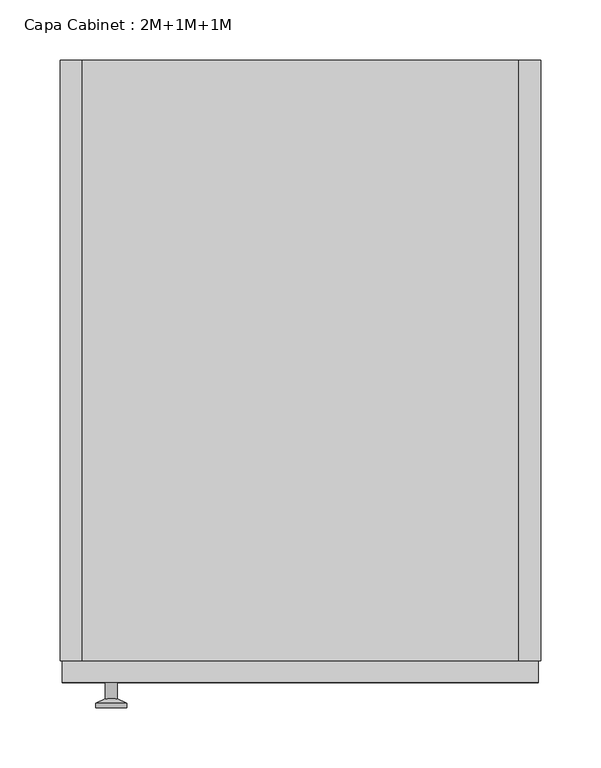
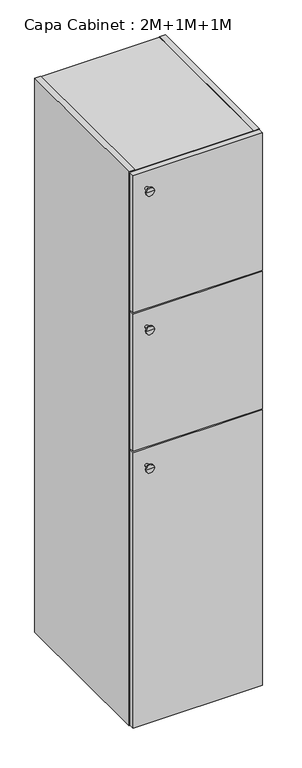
"""IFC4 building model written with IfcOpenShell, lengths in millimetres: furniture geometry, Capa Cabinet : 2M+1M+1M."""

from ifc_helpers import new_model, si_unit, frame, origin, place, context, project, spatial, polyline, circle_curve, outline, extrude, faceted_brep, source, transform, mapped, element, save
from ifc_brep_helpers import plane_surface, cylinder_surface, revolved_surface, advanced_brep


def capa_cabinet_2m_1m_1m_d4ed1249(model_context):
    return source(origin(), model_context, "Body", "SolidModel", [
        extrude(outline(polyline([(182.0, 0.0), (-182.0, 0.0), (-182.0, 490.0), (182.0, 490.0), (182.0, 0.0)])), frame((0.0, 0.0, 1337.0), z_axis=(0.0, 0.0, 1.0), x_axis=(1.0, 0.0, 0.0)), (0.0, 0.0, 1.0), 14.0),
        extrude(outline(polyline([(182.0, 0.0), (-182.0, 0.0), (-182.0, 490.0), (182.0, 490.0), (182.0, 0.0)])), frame((0.0, 0.0, 889.0), z_axis=(0.0, 0.0, 1.0), x_axis=(1.0, 0.0, 0.0)), (0.0, 0.0, 1.0), 14.0),
        extrude(outline(polyline([(182.0, 0.0), (-182.0, 0.0), (-182.0, 490.0), (182.0, 490.0), (182.0, 0.0)])), frame((0.0, 0.0, 441.0), z_axis=(0.0, 0.0, 1.0), x_axis=(1.0, 0.0, 0.0)), (0.0, 0.0, 1.0), 14.0),
        faceted_brep([(-182.0, 500.0, 1792.0), (-182.0, 500.0, 1791.0), (182.0, 500.0, 1791.0), (182.0, 500.0, 1792.0), (200.0, 500.0, 1792.0), (200.0, 500.0, 0.0), (182.0, 500.0, 0.0), (182.0, 500.0, 1.0), (-182.0, 500.0, 1.0), (-182.0, 500.0, 0.0), (-200.0, 500.0, 0.0), (-200.0, 500.0, 1792.0), (182.0, 490.0, 19.0), (182.0, 490.0, 1773.0), (-182.0, 490.0, 1773.0), (-182.0, 490.0, 19.0), (-182.0, 0.0, 1792.0), (-200.0, 0.0, 1792.0), (-200.0, 0.0, 0.0), (-182.0, 0.0, 0.0), (-182.0, 0.0, 1.0), (182.0, 0.0, 1.0), (182.0, 0.0, 0.0), (200.0, 0.0, 0.0), (200.0, 0.0, 1792.0), (182.0, 0.0, 1792.0), (182.0, 0.0, 1791.0), (-182.0, 0.0, 1791.0), (182.0, 0.0, 1773.0), (182.0, 0.0, 19.0), (-182.0, 0.0, 19.0), (-182.0, 0.0, 1773.0)], [[[0, 1, 2, 3, 4, 5, 6, 7, 8, 9, 10, 11]], [[12, 13, 14, 15]], [[16, 17, 18, 19, 20, 21, 22, 23, 24, 25, 26, 27], [28, 29, 30, 31]], [[17, 16, 0, 11]], [[18, 17, 11, 10]], [[23, 22, 6, 5]], [[24, 23, 5, 4]], [[19, 18, 10, 9]], [[20, 19, 9, 8]], [[21, 20, 8, 7]], [[22, 21, 7, 6]], [[25, 24, 4, 3]], [[26, 25, 3, 2]], [[27, 26, 2, 1]], [[16, 27, 1, 0]], [[29, 28, 13, 12]], [[30, 29, 12, 15]], [[31, 30, 15, 14]], [[28, 31, 14, 13]]]),
        extrude(outline(polyline([(198.0, -18.0), (-198.0, -18.0), (-198.0, 0.0), (198.0, 0.0), (198.0, -18.0)])), frame((0.0, 0.0, 1346.0), z_axis=(0.0, 0.0, 1.0), x_axis=(1.0, 0.0, 0.0)), (0.0, 0.0, 1.0), 444.0),
        advanced_brep(
        [(-157.2922597, -18.0, 1736.0), (-152.2922597, -18.0, 1736.0), (-162.2922597, -18.0, 1736.0), (-170.2922597, -38.997134, 1736.0), (-144.2922597, -38.997134, 1736.0), (-157.2922597, -38.997134, 1736.0), (-170.2922597, -35.5419417, 1736.0), (-144.2922597, -35.5419417, 1736.0), (-162.2922597, -31.8114804, 1736.0), (-152.2922597, -31.8114804, 1736.0)],
        [
            (0, 1),
            (1, 2, circle_curve(frame((-157.2922597, -18.0, 1736.0), z_axis=(0.0, 1.0, 0.0), x_axis=(1.0, 0.0, 0.0)), 5.0)),
            (2, 0),
            (2, 1, circle_curve(frame((-157.2922597, -18.0, 1736.0), z_axis=(0.0, 1.0, 0.0), x_axis=(1.0, 0.0, 0.0)), 5.0)),
            (3, 4, circle_curve(frame((-157.2922597, -38.997134, 1736.0), z_axis=(0.0, -1.0, 0.0), x_axis=(1.0, 0.0, 0.0)), 13.0)),
            (4, 5),
            (5, 3),
            (4, 3, circle_curve(frame((-157.2922597, -38.997134, 1736.0), z_axis=(0.0, -1.0, 0.0), x_axis=(1.0, 0.0, 0.0)), 13.0)),
            (6, 7, circle_curve(frame((-157.2922597, -35.5419417, 1736.0), z_axis=(0.0, -1.0, 0.0), x_axis=(1.0, 0.0, 0.0)), 13.0)),
            (7, 4),
            (3, 6),
            (7, 6, circle_curve(frame((-157.2922597, -35.5419417, 1736.0), z_axis=(0.0, -1.0, 0.0), x_axis=(1.0, 0.0, 0.0)), 13.0)),
            (8, 9, circle_curve(frame((-157.2922597, -31.8114804, 1736.0), z_axis=(0.0, -1.0, 0.0), x_axis=(1.0, 0.0, 0.0)), 5.0)),
            (9, 7),
            (6, 8),
            (9, 8, circle_curve(frame((-157.2922597, -31.8114804, 1736.0), z_axis=(0.0, -1.0, 0.0), x_axis=(1.0, 0.0, 0.0)), 5.0)),
            (1, 9),
            (8, 2),
        ],
        [
            plane_surface(frame((-157.2922597, -18.0, 1736.0), z_axis=(0.0, 1.0, 0.0), x_axis=(1.0, 0.0, 0.0))),
            plane_surface(frame((-157.2922597, -38.997134, 1736.0), z_axis=(0.0, -1.0, 0.0), x_axis=(1.0, 0.0, 0.0))),
            cylinder_surface(frame((-157.2922597, -38.997134, 1736.0), z_axis=(0.0, 1.0, 0.0), x_axis=(1.0, 0.0, 0.0)), 13.0),
            revolved_surface(polyline([(-144.2922597, -35.5419417, 1736.0), (-152.2922597, -31.8114804, 1736.0)]), (-157.2922597, -38.997134, 1736.0), (0.0, 1.0, 0.0)),
            cylinder_surface(frame((-157.2922597, -38.997134, 1736.0), z_axis=(0.0, 1.0, 0.0), x_axis=(1.0, 0.0, 0.0)), 5.0),
        ],
        [
            (0, [[1, 2, 3]]),
            (0, [[-3, 4, -1]]),
            (1, [[5, 6, 7]]),
            (1, [[8, -7, -6]]),
            (2, [[9, 10, -5, 11]]),
            (2, [[12, -11, -8, -10]]),
            (3, [[13, 14, -9, 15]]),
            (3, [[16, -15, -12, -14]]),
            (4, [[-2, 17, -13, 18]]),
            (4, [[-4, -18, -16, -17]]),
        ],
    ),
        extrude(outline(polyline([(198.0, -18.0), (-198.0, -18.0), (-198.0, 0.0), (198.0, 0.0), (198.0, -18.0)])), frame((0.0, 0.0, 898.0), z_axis=(0.0, 0.0, 1.0), x_axis=(1.0, 0.0, 0.0)), (0.0, 0.0, 1.0), 444.0),
        advanced_brep(
        [(-157.2922597, -18.0, 1288.0), (-152.2922597, -18.0, 1288.0), (-162.2922597, -18.0, 1288.0), (-170.2922597, -38.997134, 1288.0), (-144.2922597, -38.997134, 1288.0), (-157.2922597, -38.997134, 1288.0), (-170.2922597, -35.5419417, 1288.0), (-144.2922597, -35.5419417, 1288.0), (-162.2922597, -31.8114804, 1288.0), (-152.2922597, -31.8114804, 1288.0)],
        [
            (0, 1),
            (1, 2, circle_curve(frame((-157.2922597, -18.0, 1288.0), z_axis=(0.0, 1.0, 0.0), x_axis=(1.0, 0.0, 0.0)), 5.0)),
            (2, 0),
            (2, 1, circle_curve(frame((-157.2922597, -18.0, 1288.0), z_axis=(0.0, 1.0, 0.0), x_axis=(1.0, 0.0, 0.0)), 5.0)),
            (3, 4, circle_curve(frame((-157.2922597, -38.997134, 1288.0), z_axis=(0.0, -1.0, 0.0), x_axis=(1.0, 0.0, 0.0)), 13.0)),
            (4, 5),
            (5, 3),
            (4, 3, circle_curve(frame((-157.2922597, -38.997134, 1288.0), z_axis=(0.0, -1.0, 0.0), x_axis=(1.0, 0.0, 0.0)), 13.0)),
            (6, 7, circle_curve(frame((-157.2922597, -35.5419417, 1288.0), z_axis=(0.0, -1.0, 0.0), x_axis=(1.0, 0.0, 0.0)), 13.0)),
            (7, 4),
            (3, 6),
            (7, 6, circle_curve(frame((-157.2922597, -35.5419417, 1288.0), z_axis=(0.0, -1.0, 0.0), x_axis=(1.0, 0.0, 0.0)), 13.0)),
            (8, 9, circle_curve(frame((-157.2922597, -31.8114804, 1288.0), z_axis=(0.0, -1.0, 0.0), x_axis=(1.0, 0.0, 0.0)), 5.0)),
            (9, 7),
            (6, 8),
            (9, 8, circle_curve(frame((-157.2922597, -31.8114804, 1288.0), z_axis=(0.0, -1.0, 0.0), x_axis=(1.0, 0.0, 0.0)), 5.0)),
            (1, 9),
            (8, 2),
        ],
        [
            plane_surface(frame((-157.2922597, -18.0, 1288.0), z_axis=(0.0, 1.0, 0.0), x_axis=(1.0, 0.0, 0.0))),
            plane_surface(frame((-157.2922597, -38.997134, 1288.0), z_axis=(0.0, -1.0, 0.0), x_axis=(1.0, 0.0, 0.0))),
            cylinder_surface(frame((-157.2922597, -38.997134, 1288.0), z_axis=(0.0, 1.0, 0.0), x_axis=(1.0, 0.0, 0.0)), 13.0),
            revolved_surface(polyline([(-144.2922597, -35.5419417, 1288.0), (-152.2922597, -31.8114804, 1288.0)]), (-157.2922597, -38.997134, 1288.0), (0.0, 1.0, 0.0)),
            cylinder_surface(frame((-157.2922597, -38.997134, 1288.0), z_axis=(0.0, 1.0, 0.0), x_axis=(1.0, 0.0, 0.0)), 5.0),
        ],
        [
            (0, [[1, 2, 3]]),
            (0, [[-3, 4, -1]]),
            (1, [[5, 6, 7]]),
            (1, [[8, -7, -6]]),
            (2, [[9, 10, -5, 11]]),
            (2, [[12, -11, -8, -10]]),
            (3, [[13, 14, -9, 15]]),
            (3, [[16, -15, -12, -14]]),
            (4, [[-2, 17, -13, 18]]),
            (4, [[-4, -18, -16, -17]]),
        ],
    ),
        extrude(outline(polyline([(198.0, -18.0), (-198.0, -18.0), (-198.0, 0.0), (198.0, 0.0), (198.0, -18.0)])), frame((0.0, 0.0, 2.0), z_axis=(0.0, 0.0, 1.0), x_axis=(1.0, 0.0, 0.0)), (0.0, 0.0, 1.0), 892.0),
        advanced_brep(
        [(-157.2922597, -18.0, 840.0), (-152.2922597, -18.0, 840.0), (-162.2922597, -18.0, 840.0), (-170.2922597, -38.997134, 840.0), (-144.2922597, -38.997134, 840.0), (-157.2922597, -38.997134, 840.0), (-170.2922597, -35.5419417, 840.0), (-144.2922597, -35.5419417, 840.0), (-162.2922597, -31.8114804, 840.0), (-152.2922597, -31.8114804, 840.0)],
        [
            (0, 1),
            (1, 2, circle_curve(frame((-157.2922597, -18.0, 840.0), z_axis=(0.0, 1.0, 0.0), x_axis=(1.0, 0.0, 0.0)), 5.0)),
            (2, 0),
            (2, 1, circle_curve(frame((-157.2922597, -18.0, 840.0), z_axis=(0.0, 1.0, 0.0), x_axis=(1.0, 0.0, 0.0)), 5.0)),
            (3, 4, circle_curve(frame((-157.2922597, -38.997134, 840.0), z_axis=(0.0, -1.0, 0.0), x_axis=(1.0, 0.0, 0.0)), 13.0)),
            (4, 5),
            (5, 3),
            (4, 3, circle_curve(frame((-157.2922597, -38.997134, 840.0), z_axis=(0.0, -1.0, 0.0), x_axis=(1.0, 0.0, 0.0)), 13.0)),
            (6, 7, circle_curve(frame((-157.2922597, -35.5419417, 840.0), z_axis=(0.0, -1.0, 0.0), x_axis=(1.0, 0.0, 0.0)), 13.0)),
            (7, 4),
            (3, 6),
            (7, 6, circle_curve(frame((-157.2922597, -35.5419417, 840.0), z_axis=(0.0, -1.0, 0.0), x_axis=(1.0, 0.0, 0.0)), 13.0)),
            (8, 9, circle_curve(frame((-157.2922597, -31.8114804, 840.0), z_axis=(0.0, -1.0, 0.0), x_axis=(1.0, 0.0, 0.0)), 5.0)),
            (9, 7),
            (6, 8),
            (9, 8, circle_curve(frame((-157.2922597, -31.8114804, 840.0), z_axis=(0.0, -1.0, 0.0), x_axis=(1.0, 0.0, 0.0)), 5.0)),
            (1, 9),
            (8, 2),
        ],
        [
            plane_surface(frame((-157.2922597, -18.0, 840.0), z_axis=(0.0, 1.0, 0.0), x_axis=(1.0, 0.0, 0.0))),
            plane_surface(frame((-157.2922597, -38.997134, 840.0), z_axis=(0.0, -1.0, 0.0), x_axis=(1.0, 0.0, 0.0))),
            cylinder_surface(frame((-157.2922597, -38.997134, 840.0), z_axis=(0.0, 1.0, 0.0), x_axis=(1.0, 0.0, 0.0)), 13.0),
            revolved_surface(polyline([(-144.2922597, -35.5419417, 840.0), (-152.2922597, -31.8114804, 840.0)]), (-157.2922597, -38.997134, 840.0), (0.0, 1.0, 0.0)),
            cylinder_surface(frame((-157.2922597, -38.997134, 840.0), z_axis=(0.0, 1.0, 0.0), x_axis=(1.0, 0.0, 0.0)), 5.0),
        ],
        [
            (0, [[1, 2, 3]]),
            (0, [[-3, 4, -1]]),
            (1, [[5, 6, 7]]),
            (1, [[8, -7, -6]]),
            (2, [[9, 10, -5, 11]]),
            (2, [[12, -11, -8, -10]]),
            (3, [[13, 14, -9, 15]]),
            (3, [[16, -15, -12, -14]]),
            (4, [[-2, 17, -13, 18]]),
            (4, [[-4, -18, -16, -17]]),
        ],
    ),
    ])


if __name__ == "__main__":
    model = new_model("IFC4")
    model_context = context("Model", 3, world=origin())
    ifc_project = project(units=[si_unit("LENGTHUNIT", "METRE", prefix="MILLI")], contexts=[model_context])
    site = spatial("IfcSite", under=ifc_project)
    building = spatial("IfcBuilding", under=site)
    placement = place(None, origin())
    capa_cabinet_2m_1m_1m_shape = capa_cabinet_2m_1m_1m_d4ed1249(model_context)
    element("IfcFurniture", 1, ObjectType="Capa Cabinet : 2M+1M+1M", at=placement, inside=building, context=model_context, shape_type="MappedRepresentation", body=[
        mapped(capa_cabinet_2m_1m_1m_shape, transform((0.0, 0.0, 0.0), x_axis=(1.0, 0.0, 0.0), y_axis=(0.0, 1.0, 0.0), z_axis=(0.0, 0.0, 1.0))),
    ])
    save(model, "model.ifc")
